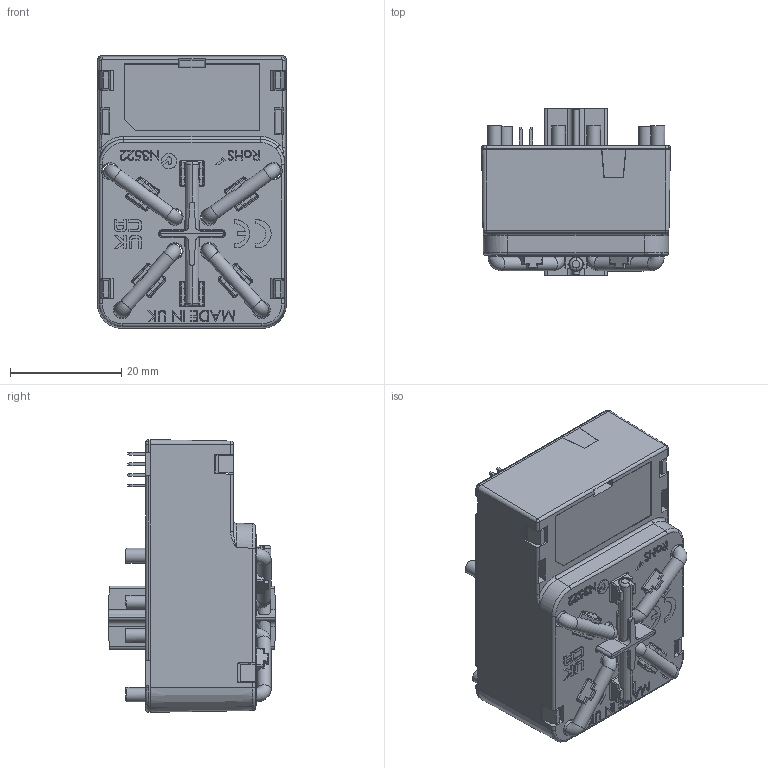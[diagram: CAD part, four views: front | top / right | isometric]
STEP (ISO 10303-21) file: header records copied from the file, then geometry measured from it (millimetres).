
FILE_DESCRIPTION(('FreeCAD Model'),'2;1');
FILE_NAME('C:/Users/ian/OneDrive/Documents/Broyce/Projects/PJ213 - RCM-EV/Housing/RCM-EV-08/RCM-EV-08_15062021.step','2021-06-15T10:46:55', ('Author'),(''),'Open CASCADE STEP processor 7.3','FreeCAD','Unknown' );
FILE_SCHEMA(('AUTOMOTIVE_DESIGN { 1 0 10303 214 1 1 1 1 }'));
Products named in the file (1): Fusion
Bounding box: 33.94 x 30 x 49.04 mm (x, y, z)
Volume: 8900.1 mm3; surface area: 22059.7 mm2
Topology: 3 solids, 3 shells, 1877 faces, 5000 edges, 3190 vertices
Faces by surface type: plane 982, bspline 352, cylinder 289, cone 149, torus 75, sphere 28, revolution 2
Full cylindrical faces by diameter (mm): 2.5 x12
Entity records: 187379 total; most frequent: CARTESIAN_POINT 83780, DIRECTION 13930, ORIENTED_EDGE 9976, PCURVE 9976, DEFINITIONAL_REPRESENTATION 9976, LINE 9163, VECTOR 9163, EDGE_CURVE 4988
